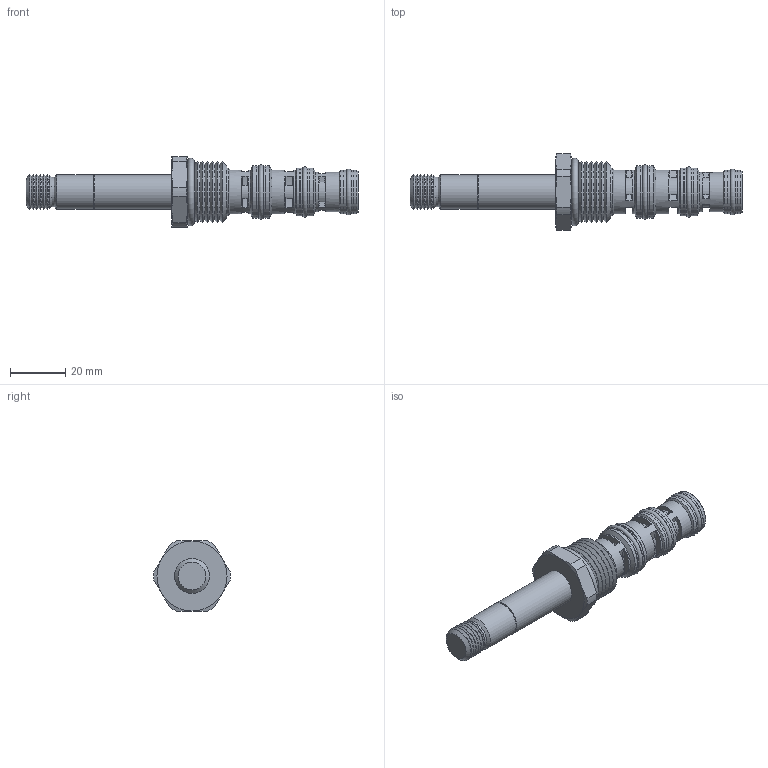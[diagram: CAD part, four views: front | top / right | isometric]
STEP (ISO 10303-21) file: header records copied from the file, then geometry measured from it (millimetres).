
FILE_DESCRIPTION((''),'2;1');
FILE_NAME('Q:\Solid model CD\Solid model full\Solenoid\STEP\DGS4F00-3D Full.stp','2009-06-01T09:29:11',('Dan'),(''),'Autodesk Inventor 2009','Autodesk Inventor 2009','');
FILE_SCHEMA(('AUTOMOTIVE_DESIGN { 1 0 10303 214 1 1 1 1 }'));
Length unit declared in the file: inch
Products named in the file (12): DGS4F00-3D Full; DGS4F00-3D Full1; DGS4F00-3D Full2; DGS4F00-3D Full3; DGS4F00-3D Full4; DGS4F00-3D Full5; DGS4F00-3D Full6; DGS4F00-3D Full7; DGS4F00-3D Full8; DGS4F00-3D Full9; DGS4F00-3D Full10; DGS4F00-3D Full11
Assembly tree (11 placements, depth 2):
  DGS4F00-3D Full
    DGS4F00-3D Full1
    DGS4F00-3D Full2
    DGS4F00-3D Full3
    DGS4F00-3D Full4
    DGS4F00-3D Full5
    DGS4F00-3D Full6
    DGS4F00-3D Full7
    DGS4F00-3D Full8
    DGS4F00-3D Full9
    DGS4F00-3D Full10
    DGS4F00-3D Full11
Bounding box: 120.28 x 27.74 x 25.4 mm (x, y, z)
Volume: 23225.6 mm3; surface area: 11294.2 mm2
Topology: 11 solids, 11 shells, 208 faces, 464 edges, 289 vertices
Faces by surface type: cylinder 64, plane 51, cone 50, torus 40, bspline 3
Full cylindrical faces by diameter (mm): 10.668 x1, 10.998 x1, 11.11 x1, 12.586 x1, 12.675 x1, 12.992 x1, 13.043 x2, 14.275 x1, 14.592 x1, 14.643 x2, 15.773 x4, 15.875 x2, 16.167 x1, 16.218 x2, 17.323 x1, 17.374 x4, 18.91 x2, 18.948 x2, 19.624 x1
Entity records: 6510 total; most frequent: CARTESIAN_POINT 1865, DIRECTION 978, ORIENTED_EDGE 762, AXIS2_PLACEMENT_3D 465, EDGE_CURVE 381, EDGE_LOOP 314, VERTEX_POINT 281, CIRCLE 237
